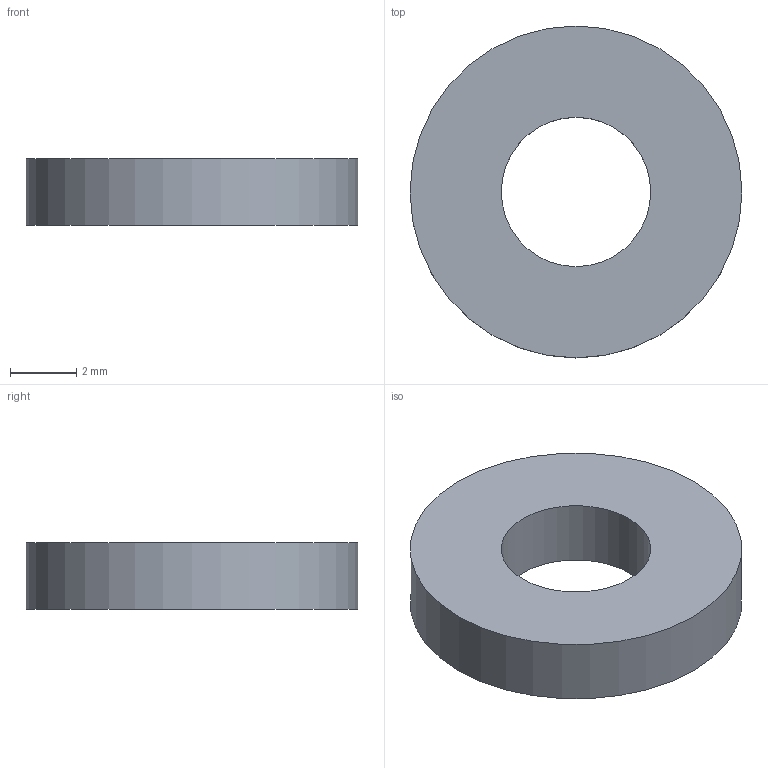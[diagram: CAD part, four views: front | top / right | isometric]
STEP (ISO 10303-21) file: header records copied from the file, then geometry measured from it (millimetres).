
FILE_DESCRIPTION(('Open CASCADE Model'),'2;1');
FILE_NAME('Open CASCADE Shape Model','2026-09-18T15:14:33',('Author'),( 'Open CASCADE'),'Open CASCADE STEP processor 7.9','Open CASCADE 7.9' ,'Unknown');
FILE_SCHEMA(('AUTOMOTIVE_DESIGN { 1 0 10303 214 1 1 1 1 }'));
Length unit declared in the file: millimetre
Products named in the file (1): Open CASCADE STEP translator 7.9 11
Bounding box: 10 x 10 x 2 mm (x, y, z)
Volume: 125.3 mm3; surface area: 216.4 mm2
Topology: 1 solids, 1 shells, 4 faces, 6 edges, 4 vertices
Faces by surface type: cylinder 2, plane 2
Full cylindrical faces by diameter (mm): 4.5 x1, 10 x1
Entity records: 186 total; most frequent: DIRECTION 32, CARTESIAN_POINT 27, ORIENTED_EDGE 12, PCURVE 12, DEFINITIONAL_REPRESENTATION 12, LINE 10, VECTOR 10, AXIS2_PLACEMENT_3D 9
